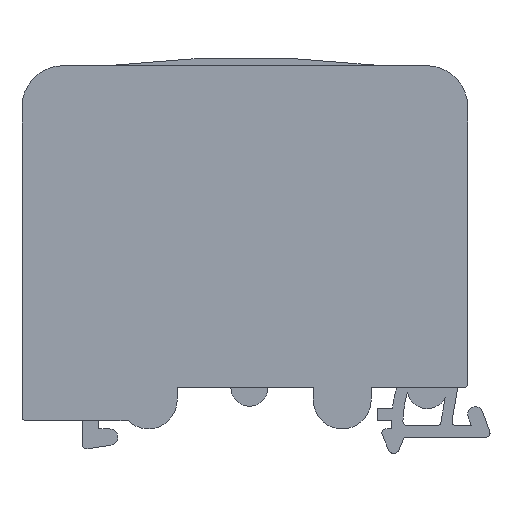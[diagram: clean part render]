
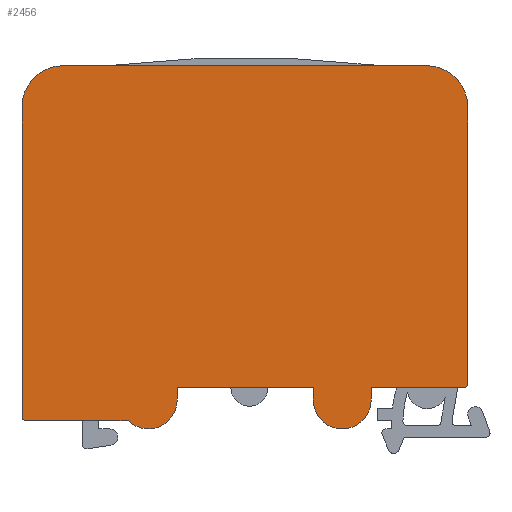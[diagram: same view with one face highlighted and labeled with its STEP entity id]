
A CAD part, front view. The second image highlights one B-rep face of the part: STEP entity #2456.
In plain terms, the highlighted planar face has unit normal (0, -1, 0).
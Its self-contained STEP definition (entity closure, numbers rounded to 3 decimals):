
#118=CIRCLE('',#2649,3.5);
#120=CIRCLE('',#2655,3.5);
#122=CIRCLE('',#2659,0.5);
#124=CIRCLE('',#2662,0.5);
#127=CIRCLE('',#2667,5.);
#128=CIRCLE('',#2668,5.);
#664=ORIENTED_EDGE('',*,*,#1147,.F.);
#665=ORIENTED_EDGE('',*,*,#1137,.T.);
#666=ORIENTED_EDGE('',*,*,#1133,.F.);
#667=ORIENTED_EDGE('',*,*,#1132,.F.);
#668=ORIENTED_EDGE('',*,*,#1129,.F.);
#669=ORIENTED_EDGE('',*,*,#1124,.F.);
#670=ORIENTED_EDGE('',*,*,#1122,.F.);
#671=ORIENTED_EDGE('',*,*,#1119,.F.);
#672=ORIENTED_EDGE('',*,*,#1116,.F.);
#673=ORIENTED_EDGE('',*,*,#1113,.F.);
#674=ORIENTED_EDGE('',*,*,#1141,.T.);
#675=ORIENTED_EDGE('',*,*,#1148,.F.);
#676=ORIENTED_EDGE('',*,*,#1149,.T.);
#677=ORIENTED_EDGE('',*,*,#1150,.F.);
#678=ORIENTED_EDGE('',*,*,#1151,.T.);
#1113=EDGE_CURVE('',#1392,#1393,#1648,.T.);
#1116=EDGE_CURVE('',#1393,#1395,#1651,.T.);
#1119=EDGE_CURVE('',#1395,#1397,#118,.T.);
#1122=EDGE_CURVE('',#1397,#1399,#1655,.T.);
#1124=EDGE_CURVE('',#1399,#1400,#1657,.T.);
#1129=EDGE_CURVE('',#1400,#1403,#1662,.T.);
#1132=EDGE_CURVE('',#1403,#1405,#120,.T.);
#1133=EDGE_CURVE('',#1405,#1406,#1664,.T.);
#1137=EDGE_CURVE('',#1409,#1406,#122,.F.);
#1141=EDGE_CURVE('',#1392,#1411,#124,.F.);
#1147=EDGE_CURVE('',#1409,#1416,#1672,.T.);
#1148=EDGE_CURVE('',#1417,#1411,#1673,.T.);
#1149=EDGE_CURVE('',#1417,#1418,#127,.F.);
#1150=EDGE_CURVE('',#1419,#1418,#1674,.T.);
#1151=EDGE_CURVE('',#1419,#1416,#128,.F.);
#1392=VERTEX_POINT('',#3921);
#1393=VERTEX_POINT('',#3923);
#1395=VERTEX_POINT('',#3929);
#1397=VERTEX_POINT('',#3935);
#1399=VERTEX_POINT('',#3941);
#1400=VERTEX_POINT('',#3945);
#1403=VERTEX_POINT('',#3952);
#1405=VERTEX_POINT('',#3958);
#1406=VERTEX_POINT('',#3963);
#1409=VERTEX_POINT('',#3971);
#1411=VERTEX_POINT('',#3977);
#1416=VERTEX_POINT('',#3991);
#1417=VERTEX_POINT('',#3993);
#1418=VERTEX_POINT('',#3995);
#1419=VERTEX_POINT('',#3997);
#1648=LINE('',#3922,#1929);
#1651=LINE('',#3928,#1932);
#1655=LINE('',#3940,#1936);
#1657=LINE('',#3944,#1938);
#1662=LINE('',#3954,#1943);
#1664=LINE('',#3962,#1945);
#1672=LINE('',#3990,#1953);
#1673=LINE('',#3992,#1954);
#1674=LINE('',#3996,#1955);
#1929=VECTOR('',#3197,1000.);
#1932=VECTOR('',#3202,1000.);
#1936=VECTOR('',#3214,1000.);
#1938=VECTOR('',#3218,1000.);
#1943=VECTOR('',#3225,1000.);
#1945=VECTOR('',#3235,1000.);
#1953=VECTOR('',#3263,1000.);
#1954=VECTOR('',#3264,1000.);
#1955=VECTOR('',#3267,1000.);
#2110=EDGE_LOOP('',(#664,#665,#666,#667,#668,#669,#670,#671,#672,#673,#674,
#675,#676,#677,#678));
#2241=FACE_BOUND('',#2110,.T.);
#2335=PLANE('',#2666);
#2456=ADVANCED_FACE('',(#2241),#2335,.F.);
#2649=AXIS2_PLACEMENT_3D('',#3934,#3208,#3209);
#2655=AXIS2_PLACEMENT_3D('',#3960,#3231,#3232);
#2659=AXIS2_PLACEMENT_3D('',#3970,#3242,#3243);
#2662=AXIS2_PLACEMENT_3D('',#3978,#3250,#3251);
#2666=AXIS2_PLACEMENT_3D('',#3989,#3261,#3262);
#2667=AXIS2_PLACEMENT_3D('',#3994,#3265,#3266);
#2668=AXIS2_PLACEMENT_3D('',#3998,#3268,#3269);
#3197=DIRECTION('',(-1.,0.,0.));
#3202=DIRECTION('',(0.,0.,-1.));
#3208=DIRECTION('',(0.,1.,0.));
#3209=DIRECTION('',(-1.,0.,0.));
#3214=DIRECTION('',(0.,0.,1.));
#3218=DIRECTION('',(-1.,0.,0.));
#3225=DIRECTION('',(0.,0.,-1.));
#3231=DIRECTION('',(0.,1.,0.));
#3232=DIRECTION('',(1.,0.,0.));
#3235=DIRECTION('',(-1.,0.,0.));
#3242=DIRECTION('',(0.,1.,0.));
#3243=DIRECTION('',(0.,0.,1.));
#3250=DIRECTION('',(0.,1.,0.));
#3251=DIRECTION('',(0.,0.,1.));
#3261=DIRECTION('',(0.,1.,0.));
#3262=DIRECTION('',(0.,0.,1.));
#3263=DIRECTION('',(0.,0.,1.));
#3264=DIRECTION('',(0.,0.,-1.));
#3265=DIRECTION('',(0.,1.,0.));
#3266=DIRECTION('',(0.,0.,1.));
#3267=DIRECTION('',(1.,0.,0.));
#3268=DIRECTION('',(0.,1.,0.));
#3269=DIRECTION('',(0.,0.,1.));
#3921=CARTESIAN_POINT('',(26.5,0.,-17.5));
#3922=CARTESIAN_POINT('',(15.3,0.,-17.5));
#3923=CARTESIAN_POINT('',(15.3,0.,-17.5));
#3928=CARTESIAN_POINT('',(15.3,0.,-19.));
#3929=CARTESIAN_POINT('',(15.3,0.,-19.));
#3934=CARTESIAN_POINT('',(11.8,0.,-19.));
#3935=CARTESIAN_POINT('',(8.3,0.,-19.));
#3940=CARTESIAN_POINT('',(8.3,0.,-21.5));
#3941=CARTESIAN_POINT('',(8.3,0.,-17.5));
#3944=CARTESIAN_POINT('',(-8.2,0.,-17.5));
#3945=CARTESIAN_POINT('',(-8.2,0.,-17.5));
#3952=CARTESIAN_POINT('',(-8.2,0.,-19.));
#3954=CARTESIAN_POINT('',(-8.2,0.,-21.5));
#3958=CARTESIAN_POINT('',(-14.149,0.,-21.5));
#3960=CARTESIAN_POINT('',(-11.7,0.,-19.));
#3962=CARTESIAN_POINT('',(29.585,0.,-21.5));
#3963=CARTESIAN_POINT('',(-26.5,0.,-21.5));
#3970=CARTESIAN_POINT('',(-26.5,0.,-21.));
#3971=CARTESIAN_POINT('',(-27.,0.,-21.));
#3977=CARTESIAN_POINT('',(27.,0.,-17.));
#3978=CARTESIAN_POINT('',(26.5,0.,-17.));
#3989=CARTESIAN_POINT('',(0.,0.,0.));
#3990=CARTESIAN_POINT('',(-27.,0.,-28.544));
#3991=CARTESIAN_POINT('',(-27.,0.,16.5));
#3992=CARTESIAN_POINT('',(27.,0.,28.544));
#3993=CARTESIAN_POINT('',(27.,0.,16.5));
#3994=CARTESIAN_POINT('',(22.,0.,16.5));
#3995=CARTESIAN_POINT('',(22.,0.,21.5));
#3996=CARTESIAN_POINT('',(-29.585,0.,21.5));
#3997=CARTESIAN_POINT('',(-22.,0.,21.5));
#3998=CARTESIAN_POINT('',(-22.,0.,16.5));
